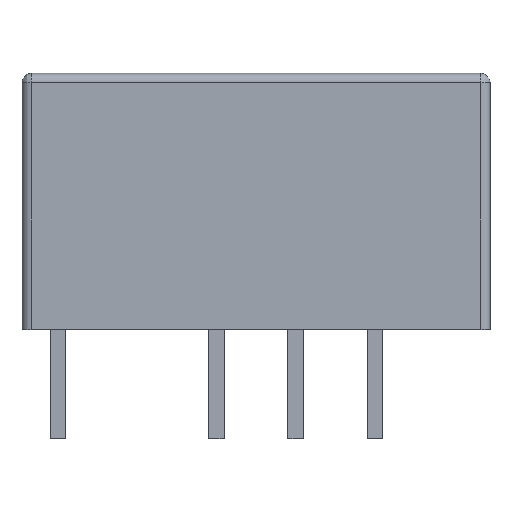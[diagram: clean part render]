
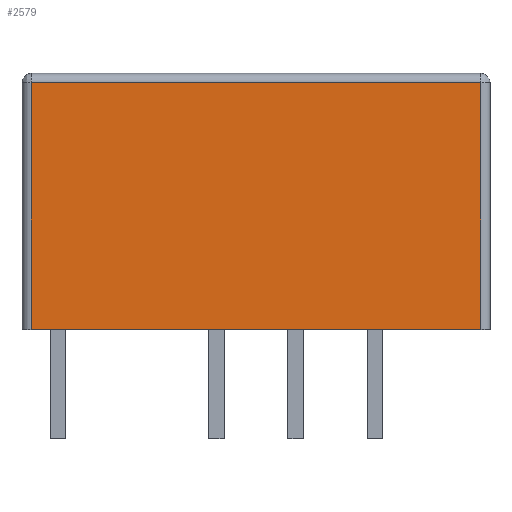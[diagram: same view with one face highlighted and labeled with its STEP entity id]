
A CAD part, top view. The second image highlights one B-rep face of the part: STEP entity #2579.
In plain terms, the highlighted planar face has unit normal (0, 0, 1).
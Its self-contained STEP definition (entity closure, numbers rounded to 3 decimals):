
#3 = CARTESIAN_POINT ( 'NONE',  ( -0.85, 8.2, 1.16 ) ) ;
#234 = FACE_OUTER_BOUND ( 'NONE', #1795, .T. ) ;
#360 = VECTOR ( 'NONE', #1893, 1000. ) ;
#710 = CARTESIAN_POINT ( 'NONE',  ( -0.85, 0., 1.16 ) ) ;
#734 = VECTOR ( 'NONE', #2536, 1000. ) ;
#855 = CARTESIAN_POINT ( 'NONE',  ( 13.55, 8.2, 1.16 ) ) ;
#904 = EDGE_CURVE ( 'NONE', #2188, #3760, #8072, .T. ) ;
#1535 = DIRECTION ( 'NONE',  ( 1., 0., 0. ) ) ;
#1795 = EDGE_LOOP ( 'NONE', ( #7672, #6537, #4593, #4262 ) ) ;
#1893 = DIRECTION ( 'NONE',  ( -1., 0., 0. ) ) ;
#2079 = DIRECTION ( 'NONE',  ( 0., -1., 0. ) ) ;
#2172 = VECTOR ( 'NONE', #1535, 1000. ) ;
#2188 = VERTEX_POINT ( 'NONE', #4097 ) ;
#2412 = CARTESIAN_POINT ( 'NONE',  ( 13.55, 7.9, 1.16 ) ) ;
#2536 = DIRECTION ( 'NONE',  ( 0., 1., 0. ) ) ;
#2579 = ADVANCED_FACE ( 'NONE', ( #234 ), #3345, .F. ) ;
#2798 = VECTOR ( 'NONE', #2079, 1000. ) ;
#2816 = VERTEX_POINT ( 'NONE', #710 ) ;
#3027 = EDGE_CURVE ( 'NONE', #2816, #2188, #5662, .T. ) ;
#3190 = AXIS2_PLACEMENT_3D ( 'NONE', #7115, #7069, #6482 ) ;
#3345 = PLANE ( 'NONE',  #3190 ) ;
#3474 = CARTESIAN_POINT ( 'NONE',  ( 13.55, 0., 1.16 ) ) ;
#3760 = VERTEX_POINT ( 'NONE', #2412 ) ;
#3885 = EDGE_CURVE ( 'NONE', #5091, #2816, #6448, .T. ) ;
#4061 = LINE ( 'NONE', #855, #2798 ) ;
#4097 = CARTESIAN_POINT ( 'NONE',  ( -0.85, 7.9, 1.16 ) ) ;
#4262 = ORIENTED_EDGE ( 'NONE', *, *, #3885, .F. ) ;
#4593 = ORIENTED_EDGE ( 'NONE', *, *, #3027, .F. ) ;
#5091 = VERTEX_POINT ( 'NONE', #3474 ) ;
#5662 = LINE ( 'NONE', #3, #734 ) ;
#6448 = LINE ( 'NONE', #8222, #360 ) ;
#6482 = DIRECTION ( 'NONE',  ( -1., 0., 0. ) ) ;
#6537 = ORIENTED_EDGE ( 'NONE', *, *, #904, .F. ) ;
#7069 = DIRECTION ( 'NONE',  ( 0., 0., -1. ) ) ;
#7115 = CARTESIAN_POINT ( 'NONE',  ( -1.15, 8.2, 1.16 ) ) ;
#7227 = CARTESIAN_POINT ( 'NONE',  ( -1.15, 7.9, 1.16 ) ) ;
#7672 = ORIENTED_EDGE ( 'NONE', *, *, #8025, .F. ) ;
#8025 = EDGE_CURVE ( 'NONE', #3760, #5091, #4061, .T. ) ;
#8072 = LINE ( 'NONE', #7227, #2172 ) ;
#8222 = CARTESIAN_POINT ( 'NONE',  ( -1.15, 0., 1.16 ) ) ;
